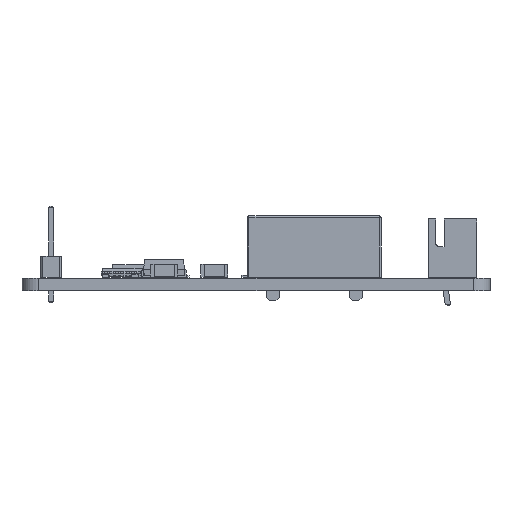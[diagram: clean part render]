
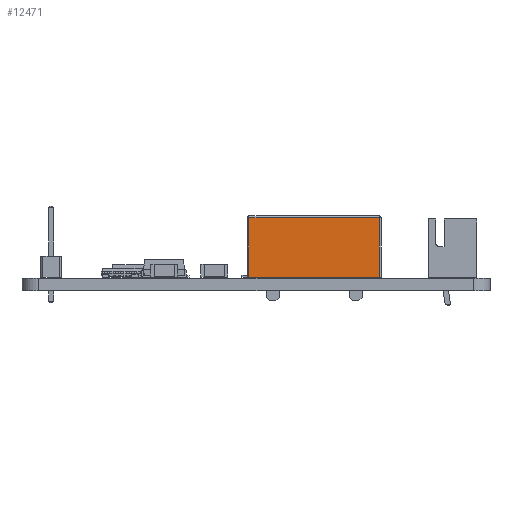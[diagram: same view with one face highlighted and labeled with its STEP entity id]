
A CAD part, left-side view. The second image highlights one B-rep face of the part: STEP entity #12471.
In plain terms, the highlighted planar face has unit normal (-1, 0, 0) as drawn and (0, -1, 0) by its records, which use the part's own axes.
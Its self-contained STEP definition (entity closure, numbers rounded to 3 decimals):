
#11878 = VERTEX_POINT('',#11879);
#11879 = CARTESIAN_POINT('',(-2.84,-5.06,0.));
#11886 = EDGE_CURVE('',#11878,#11887,#11889,.T.);
#11887 = VERTEX_POINT('',#11888);
#11888 = CARTESIAN_POINT('',(12.76,-5.06,0.));
#11889 = LINE('',#11890,#11891);
#11890 = CARTESIAN_POINT('',(-3.04,-5.06,0.));
#11891 = VECTOR('',#11892,1.);
#11892 = DIRECTION('',(1.,0.,0.));
#12133 = EDGE_CURVE('',#11887,#12134,#12136,.T.);
#12134 = VERTEX_POINT('',#12135);
#12135 = CARTESIAN_POINT('',(12.76,-5.06,7.17));
#12136 = LINE('',#12137,#12138);
#12137 = CARTESIAN_POINT('',(12.76,-5.06,0.));
#12138 = VECTOR('',#12139,1.);
#12139 = DIRECTION('',(0.,0.,1.));
#12471 = ADVANCED_FACE('',(#12472),#12490,.F.);
#12472 = FACE_BOUND('',#12473,.F.);
#12473 = EDGE_LOOP('',(#12474,#12475,#12476,#12484));
#12474 = ORIENTED_EDGE('',*,*,#12133,.F.);
#12475 = ORIENTED_EDGE('',*,*,#11886,.F.);
#12476 = ORIENTED_EDGE('',*,*,#12477,.T.);
#12477 = EDGE_CURVE('',#11878,#12478,#12480,.T.);
#12478 = VERTEX_POINT('',#12479);
#12479 = CARTESIAN_POINT('',(-2.84,-5.06,7.17));
#12480 = LINE('',#12481,#12482);
#12481 = CARTESIAN_POINT('',(-2.84,-5.06,0.));
#12482 = VECTOR('',#12483,1.);
#12483 = DIRECTION('',(0.,0.,1.));
#12484 = ORIENTED_EDGE('',*,*,#12485,.T.);
#12485 = EDGE_CURVE('',#12478,#12134,#12486,.T.);
#12486 = LINE('',#12487,#12488);
#12487 = CARTESIAN_POINT('',(-2.84,-5.06,7.17));
#12488 = VECTOR('',#12489,1.);
#12489 = DIRECTION('',(1.,0.,0.));
#12490 = PLANE('',#12491);
#12491 = AXIS2_PLACEMENT_3D('',#12492,#12493,#12494);
#12492 = CARTESIAN_POINT('',(-3.04,-5.06,0.));
#12493 = DIRECTION('',(0.,1.,0.));
#12494 = DIRECTION('',(1.,0.,0.));
